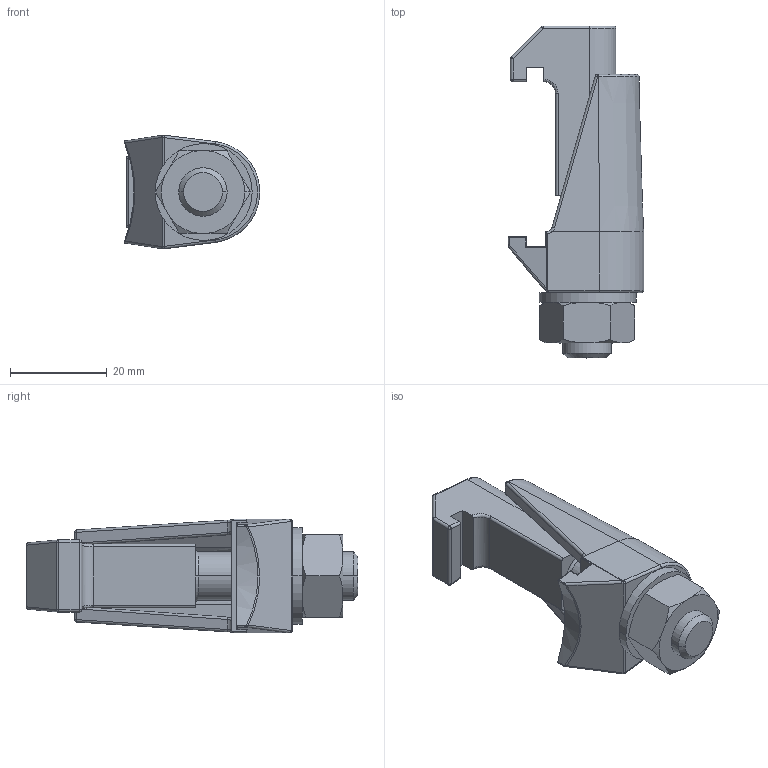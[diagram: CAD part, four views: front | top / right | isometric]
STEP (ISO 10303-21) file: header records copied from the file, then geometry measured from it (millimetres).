
FILE_DESCRIPTION((''),'2;1');
FILE_NAME('853004463_PNR_000_ASM','2015-11-09T',('l0100062'),('Copyright by Leybold GmbH'),'PRO/ENGINEER BY PARAMETRIC TECHNOLOGY CORPORATION, 2015280','PRO/ENGINEER BY PARAMETRIC TECHNOLOGY CORPORATION, 2015280','');
FILE_SCHEMA(('AUTOMOTIVE_DESIGN { 1 0 10303 214 1 1 1 1 }'));
Length unit declared in the file: millimetre
Products named in the file (5): 853004464_PNR_000; 853004465_PNR_000; 853004466_PNR_000; 22101108_DEI7089_10; 853004463_PNR_000_ASM
Assembly tree (4 placements, depth 2):
  853004463_PNR_000_ASM
    853004464_PNR_000
    853004465_PNR_000
    853004466_PNR_000
    22101108_DEI7089_10
Bounding box: 27.95 x 68.5 x 23.49 mm (x, y, z)
Volume: 19339.1 mm3; surface area: 9583.8 mm2
Topology: 4 solids, 4 shells, 148 faces, 355 edges, 216 vertices
Faces by surface type: cylinder 58, plane 40, cone 18, sphere 14, bspline 12, torus 6
Entity records: 6408 total; most frequent: CARTESIAN_POINT 1683, ORIENTED_EDGE 710, DIRECTION 688, PRESENTATION_STYLE_ASSIGNMENT 359, STYLED_ITEM 359, CURVE_STYLE 355, EDGE_CURVE 355, AXIS2_PLACEMENT_3D 268
